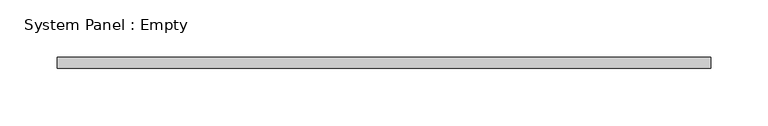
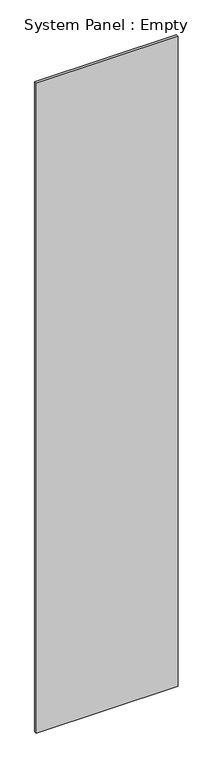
"""IFC4 building model written with IfcOpenShell, lengths in millimetres: plate geometry, System Panel : Empty."""

import ifcopenshell
import ifcopenshell.guid

model = None  # the IFC model being written
_history = None  # IfcOwnerHistory: only IFC2X3 demands one
_inside = {}  # id of a spatial element -> (the spatial element, [elements in it])
_under = {}  # id of a project, library or spatial element -> (it, [spatial elements below it])
_declared = {}  # id of a project -> (the project, [libraries it declares])
_typed = {}  # id of a type object -> (the type object, [elements of that type])
_made_of = {}  # id of a material, layer set ... -> (it, [elements and type objects made of it])


def new_model(schema):
    """Start an empty IFC model of exactly this schema.

    Asked for "IFC4X3", IfcOpenShell would pick the latest addendum, in which some entities
    have other attributes; the version numbers below select the first issue.
    IFC2X3 requires an IfcOwnerHistory on every rooted entity: one is made here for all.
    """
    global model, _history
    if schema == "IFC4X3":
        model = ifcopenshell.file(schema_version=(4, 3, 0, 0))
    else:
        model = ifcopenshell.file(schema=schema)
    _inside.clear()
    _under.clear()
    _declared.clear()
    _typed.clear()
    _made_of.clear()
    _history = None
    if model.schema == "IFC2X3":
        org = make("IfcOrganization", Name="unknown")
        user = make(
            "IfcPersonAndOrganization",
            ThePerson=make("IfcPerson", FamilyName="unknown"),
            TheOrganization=org,
        )
        app = make(
            "IfcApplication",
            ApplicationDeveloper=org,
            Version="unknown",
            ApplicationFullName="unknown",
            ApplicationIdentifier="unknown",
        )
        _history = make(
            "IfcOwnerHistory",
            OwningUser=user,
            OwningApplication=app,
            ChangeAction="ADDED",
            CreationDate=0,
        )
    return model


def make(cls, **values):
    """One entity of the class cls with the attributes given. An attribute that is None is left unset."""
    return model.create_entity(
        cls, **{name: value for name, value in values.items() if value is not None}
    )


def rooted(cls, **values):
    """An entity with a GlobalId (a new one), such as an element, a storey or a relation."""
    return make(cls, GlobalId=ifcopenshell.guid.new(), OwnerHistory=_history, **values)


def si_unit(unit_type, name, prefix=None):
    """IfcSIUnit, for example si_unit("LENGTHUNIT", "METRE", prefix="MILLI")."""
    return make("IfcSIUnit", UnitType=unit_type, Prefix=prefix, Name=name)


def assignment(units):
    """IfcUnitAssignment: the units of a project."""
    return None if units is None else make("IfcUnitAssignment", Units=units)


def point(xyz):
    """IfcCartesianPoint."""
    return None if xyz is None else make("IfcCartesianPoint", Coordinates=xyz)


def direction(xyz):
    """IfcDirection."""
    return None if xyz is None else make("IfcDirection", DirectionRatios=xyz)


def frame(location, z_axis=None, x_axis=None):
    """IfcAxis2Placement3D, a coordinate frame: its origin and axes. An axis left out is left unset."""
    return make(
        "IfcAxis2Placement3D",
        Location=point(location),
        Axis=direction(z_axis),
        RefDirection=direction(x_axis),
    )


def origin():
    """The frame at (0, 0, 0) with its axes left unset."""
    return frame((0.0, 0.0, 0.0))


def origin_with_axes():
    """The frame at (0, 0, 0) with the z axis (0, 0, 1) and the x axis (1, 0, 0) written out."""
    return frame((0.0, 0.0, 0.0), z_axis=(0.0, 0.0, 1.0), x_axis=(1.0, 0.0, 0.0))


def place(relative_to, where):
    """IfcLocalPlacement: puts the frame where relative to a parent placement (None: the world)."""
    return make(
        "IfcLocalPlacement", PlacementRelTo=relative_to, RelativePlacement=where
    )


def context(
    kind, dimensions, precision=None, world=None, true_north=None, identifier=None
):
    """IfcGeometricRepresentationContext, for example the 3D "Model" context."""
    return make(
        "IfcGeometricRepresentationContext",
        ContextIdentifier=identifier,
        ContextType=kind,
        CoordinateSpaceDimension=dimensions,
        Precision=precision,
        WorldCoordinateSystem=world,
        TrueNorth=true_north,
    )


def project(units=None, contexts=None):
    """IfcProject with its units and contexts."""
    return rooted(
        "IfcProject",
        Name="project",
        RepresentationContexts=contexts,
        UnitsInContext=assignment(units),
    )


def spatial(cls, under=None, at=None, **own):
    """A site, building, storey or space (cls), placed at a placement, below another one or the project."""
    s = rooted(cls, ObjectPlacement=at, **own)
    if under is not None:
        _under.setdefault(under.id(), (under, []))[1].append(s)
    return s


def polyline(points):
    """IfcPolyline through the points."""
    return make("IfcPolyline", Points=[point(p) for p in points])


def outline(outer, holes=None, kind="AREA"):
    """IfcArbitraryClosedProfileDef: a profile drawn as a closed curve; with holes, ...WithVoids."""
    if holes is None:
        return make("IfcArbitraryClosedProfileDef", ProfileType=kind, OuterCurve=outer)
    return make(
        "IfcArbitraryProfileDefWithVoids",
        ProfileType=kind,
        OuterCurve=outer,
        InnerCurves=holes,
    )


def extrude(swept, where, along, depth):
    """IfcExtrudedAreaSolid: the profile swept, set in the frame where, extruded along a direction by depth."""
    return make(
        "IfcExtrudedAreaSolid",
        SweptArea=swept,
        Position=where,
        ExtrudedDirection=direction(along),
        Depth=depth,
    )


def shape(context_of_items, identifier, shape_type, items):
    """IfcShapeRepresentation: the items that make up one representation, for example the "Body"."""
    return make(
        "IfcShapeRepresentation",
        ContextOfItems=context_of_items,
        RepresentationIdentifier=identifier,
        RepresentationType=shape_type,
        Items=items,
    )


def source(mapping_origin, context_of_items, identifier, shape_type, items):
    """IfcRepresentationMap: a shape defined once, which mapped items show again and again."""
    return make(
        "IfcRepresentationMap",
        MappingOrigin=mapping_origin,
        MappedRepresentation=shape(context_of_items, identifier, shape_type, items),
    )


def transform(
    local_origin,
    x_axis=None,
    y_axis=None,
    z_axis=None,
    scale=None,
    scale2=None,
    scale3=None,
    uniform=True,
):
    """IfcCartesianTransformationOperator3D, or its non-uniform kind. x_axis, y_axis, z_axis: its Axis1, 2, 3."""
    if uniform:
        return make(
            "IfcCartesianTransformationOperator3D",
            Axis1=direction(x_axis),
            Axis2=direction(y_axis),
            LocalOrigin=point(local_origin),
            Scale=scale,
            Axis3=direction(z_axis),
        )
    return make(
        "IfcCartesianTransformationOperator3DnonUniform",
        Axis1=direction(x_axis),
        Axis2=direction(y_axis),
        LocalOrigin=point(local_origin),
        Scale=scale,
        Axis3=direction(z_axis),
        Scale2=scale2,
        Scale3=scale3,
    )


def mapped(mapping_source, mapping_target):
    """IfcMappedItem: shows the shape of a source again, moved by a transform."""
    return make(
        "IfcMappedItem", MappingSource=mapping_source, MappingTarget=mapping_target
    )


def made_of(thing, what):
    """Note that an element or type object is made of a material, layer set ...; save() writes the relation."""
    if what is not None:
        _made_of.setdefault(what.id(), (what, []))[1].append(thing)
    return thing


def element(
    cls,
    number,
    at=None,
    inside=None,
    cuts=None,
    type_object=None,
    material=None,
    context=None,
    identifier="Body",
    shape_type=None,
    held_by="IfcProductDefinitionShape",
    body=None,
    shapes=None,
    **own,
):
    """One element of the class cls, such as IfcWall. Its Tag is "e" and its number.

    at: its placement. inside: the storey or other place that contains it. cuts: it is an
    opening in that element (IfcRelVoidsElement). A single representation is given by context,
    identifier, shape_type and body (its items); several are given by shapes. held_by: the class
    of the entity that holds the representations. save() writes the other relations.
    """
    e = rooted(cls, Tag="e%d" % number, ObjectPlacement=at, **own)
    if body is not None:
        shapes = [shape(context, identifier, shape_type, body)]
    if shapes is not None:
        e.Representation = make(held_by, Representations=shapes)
    if inside is not None:
        _inside.setdefault(inside.id(), (inside, []))[1].append(e)
    if cuts is not None:
        rooted(
            "IfcRelVoidsElement", RelatingBuildingElement=cuts, RelatedOpeningElement=e
        )
    if type_object is not None:
        _typed.setdefault(type_object.id(), (type_object, []))[1].append(e)
    return made_of(e, material)


def aggregate(whole, parts):
    """IfcRelAggregates: a whole, such as a stair, and the parts it consists of."""
    return rooted("IfcRelAggregates", RelatingObject=whole, RelatedObjects=parts)


def save(model, path):
    """Write the relations noted so far, then the file.

    IfcRelAggregates (storeys below a building ...), IfcRelContainedInSpatialStructure (elements
    in a storey), IfcRelDefinesByType, IfcRelAssociatesMaterial and IfcRelDeclares: one each for
    every whole, place, type object, material and project.
    """
    for whole, parts in _under.values():
        aggregate(whole, parts)
    for where, things in _inside.values():
        rooted(
            "IfcRelContainedInSpatialStructure",
            RelatedElements=things,
            RelatingStructure=where,
        )
    for kind, things in _typed.values():
        rooted("IfcRelDefinesByType", RelatedObjects=things, RelatingType=kind)
    for what, things in _made_of.values():
        rooted("IfcRelAssociatesMaterial", RelatedObjects=things, RelatingMaterial=what)
    for by, libraries in _declared.values():
        rooted("IfcRelDeclares", RelatingContext=by, RelatedDefinitions=libraries)
    model.write(path)


def system_panel_empty_106bb99e(model_context):
    return source(origin(), model_context, "Body", "SweptSolid", [
        extrude(outline(polyline([(285.75, -4.7625), (-285.75, -4.7625), (-285.75, 4.7625), (285.75, 4.7625), (285.75, -4.7625)])), origin_with_axes(), (0.0, 0.0, 1.0), 2764.1056955),
    ])


if __name__ == "__main__":
    model = new_model("IFC4")
    model_context = context("Model", 3, world=origin())
    ifc_project = project(units=[si_unit("LENGTHUNIT", "METRE", prefix="MILLI")], contexts=[model_context])
    site = spatial("IfcSite", under=ifc_project)
    building = spatial("IfcBuilding", under=site)
    placement = place(None, origin())
    system_panel_empty_shape = system_panel_empty_106bb99e(model_context)
    element("IfcPlate", 1, ObjectType="System Panel : Empty", at=placement, inside=building, context=model_context, shape_type="MappedRepresentation", body=[
        mapped(system_panel_empty_shape, transform((0.0, 0.0, 0.0), x_axis=(1.0, 0.0, 0.0), y_axis=(0.0, 1.0, 0.0), z_axis=(0.0, 0.0, 1.0))),
    ])
    save(model, "model.ifc")
